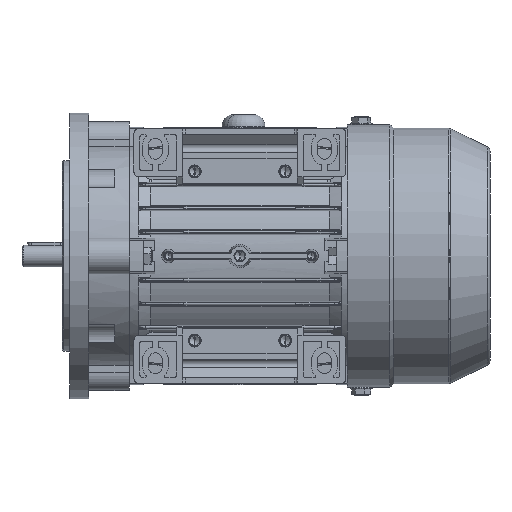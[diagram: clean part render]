
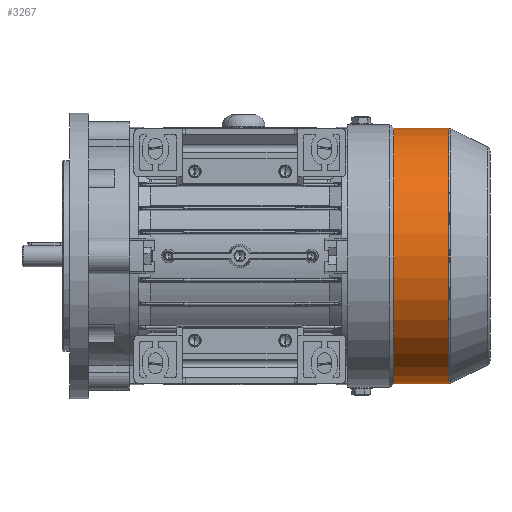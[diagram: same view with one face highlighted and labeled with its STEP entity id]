
A CAD part, front view. The second image highlights one B-rep face of the part: STEP entity #3267.
In plain terms, the highlighted cylindrical face has radius 53.6 mm (diameter 107.2 mm), a partial arc.
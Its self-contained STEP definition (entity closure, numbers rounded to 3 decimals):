
#826 = FACE_OUTER_BOUND ( 'NONE', #55748, .T. ) ;
#3267 = ADVANCED_FACE ( 'NONE', ( #826 ), #68174, .T. ) ;
#3641 = LINE ( 'NONE', #63112, #62495 ) ;
#6255 = AXIS2_PLACEMENT_3D ( 'NONE', #91888, #60724, #92554 ) ;
#8413 = CARTESIAN_POINT ( 'NONE',  ( 38., 0., 53.6 ) ) ;
#9792 = LINE ( 'NONE', #87205, #19460 ) ;
#10762 = DIRECTION ( 'NONE',  ( 0., 0., 1. ) ) ;
#18037 = ORIENTED_EDGE ( 'NONE', *, *, #72177, .T. ) ;
#18164 = DIRECTION ( 'NONE',  ( -1., 0., 0. ) ) ;
#19460 = VECTOR ( 'NONE', #95246, 1000. ) ;
#19556 = EDGE_CURVE ( 'NONE', #91917, #58293, #59716, .T. ) ;
#20725 = DIRECTION ( 'NONE',  ( -1., 0., 0. ) ) ;
#23773 = VERTEX_POINT ( 'NONE', #52474 ) ;
#24341 = AXIS2_PLACEMENT_3D ( 'NONE', #63814, #18164, #10762 ) ;
#25156 = CARTESIAN_POINT ( 'NONE',  ( 14.732, 0., 53.6 ) ) ;
#28767 = DIRECTION ( 'NONE',  ( 0., 0., 1. ) ) ;
#37081 = EDGE_CURVE ( 'NONE', #58293, #59390, #9792, .T. ) ;
#52474 = CARTESIAN_POINT ( 'NONE',  ( 14.732, 0., -53.6 ) ) ;
#55748 = EDGE_LOOP ( 'NONE', ( #65915, #57203, #65320, #18037 ) ) ;
#57203 = ORIENTED_EDGE ( 'NONE', *, *, #19556, .T. ) ;
#57424 = CIRCLE ( 'NONE', #6255, 53.6 ) ;
#58293 = VERTEX_POINT ( 'NONE', #8413 ) ;
#59390 = VERTEX_POINT ( 'NONE', #25156 ) ;
#59716 = CIRCLE ( 'NONE', #64478, 53.6 ) ;
#60724 = DIRECTION ( 'NONE',  ( 1., 0., 0. ) ) ;
#62454 = CARTESIAN_POINT ( 'NONE',  ( 38., 0., -53.6 ) ) ;
#62495 = VECTOR ( 'NONE', #63788, 1000. ) ;
#63112 = CARTESIAN_POINT ( 'NONE',  ( 0., 0., -53.6 ) ) ;
#63788 = DIRECTION ( 'NONE',  ( -1., 0., 0. ) ) ;
#63814 = CARTESIAN_POINT ( 'NONE',  ( 0., 0., 0. ) ) ;
#64478 = AXIS2_PLACEMENT_3D ( 'NONE', #82079, #20725, #28767 ) ;
#65320 = ORIENTED_EDGE ( 'NONE', *, *, #37081, .T. ) ;
#65915 = ORIENTED_EDGE ( 'NONE', *, *, #83268, .F. ) ;
#68174 = CYLINDRICAL_SURFACE ( 'NONE', #24341, 53.6 ) ;
#72177 = EDGE_CURVE ( 'NONE', #59390, #23773, #57424, .T. ) ;
#82079 = CARTESIAN_POINT ( 'NONE',  ( 38., 0., 0. ) ) ;
#83268 = EDGE_CURVE ( 'NONE', #91917, #23773, #3641, .T. ) ;
#87205 = CARTESIAN_POINT ( 'NONE',  ( 0., 0., 53.6 ) ) ;
#91888 = CARTESIAN_POINT ( 'NONE',  ( 14.732, 0., 0. ) ) ;
#91917 = VERTEX_POINT ( 'NONE', #62454 ) ;
#92554 = DIRECTION ( 'NONE',  ( 0., 0., -1. ) ) ;
#95246 = DIRECTION ( 'NONE',  ( -1., 0., 0. ) ) ;
